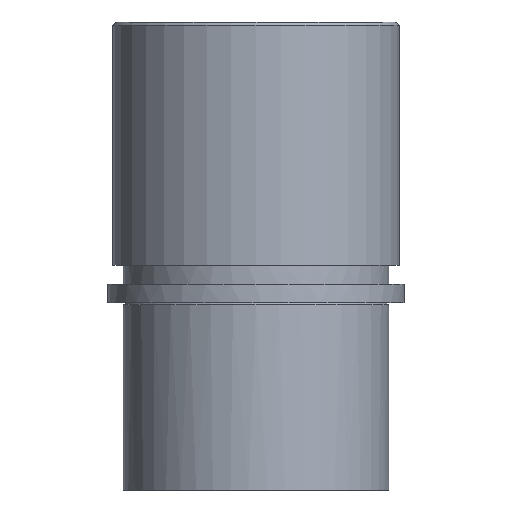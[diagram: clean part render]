
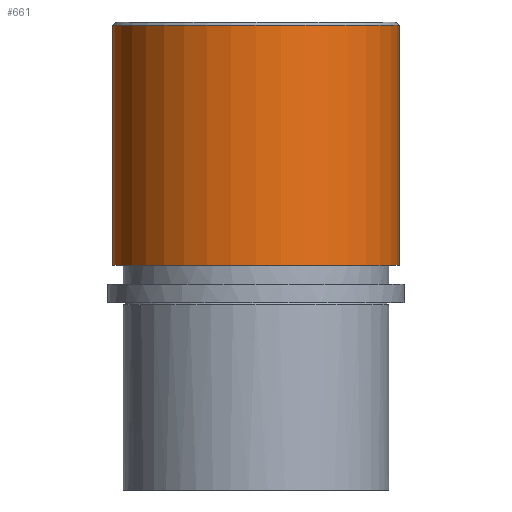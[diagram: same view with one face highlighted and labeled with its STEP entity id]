
A CAD part, front view. The second image highlights one B-rep face of the part: STEP entity #661.
In plain terms, the highlighted cylindrical face has radius 45.9 mm (diameter 91.8 mm), a partial arc.
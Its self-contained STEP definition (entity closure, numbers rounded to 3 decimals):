
#505=CARTESIAN_POINT('Vertex',(-45.9,0.,89.)) ;
#512=CARTESIAN_POINT('Vertex',(45.9,0.,89.)) ;
#532=CARTESIAN_POINT('Axis2P3D Location',(0.,0.,89.)) ;
#619=CARTESIAN_POINT('Line Origine',(-45.9,0.,90.)) ;
#623=CARTESIAN_POINT('Vertex',(-45.9,0.,12.)) ;
#626=CARTESIAN_POINT('Line Origine',(45.9,0.,90.)) ;
#630=CARTESIAN_POINT('Vertex',(45.9,0.,12.)) ;
#645=CARTESIAN_POINT('Axis2P3D Location',(0.,0.,90.)) ;
#650=CARTESIAN_POINT('Axis2P3D Location',(0.,0.,12.)) ;
#533=DIRECTION('Axis2P3D Direction',(0.,0.,-1.)) ;
#620=DIRECTION('Vector Direction',(0.,0.,-1.)) ;
#627=DIRECTION('Vector Direction',(0.,0.,-1.)) ;
#646=DIRECTION('Axis2P3D Direction',(0.,0.,-1.)) ;
#647=DIRECTION('Axis2P3D XDirection',(1.,0.,0.)) ;
#651=DIRECTION('Axis2P3D Direction',(0.,0.,-1.)) ;
#534=AXIS2_PLACEMENT_3D('Circle Axis2P3D',#532,#533,$) ;
#648=AXIS2_PLACEMENT_3D('Cylinder Axis2P3D',#645,#646,#647) ;
#652=AXIS2_PLACEMENT_3D('Circle Axis2P3D',#650,#651,$) ;
#656=ORIENTED_EDGE('',*,*,#632,.T.) ;
#657=ORIENTED_EDGE('',*,*,#536,.F.) ;
#658=ORIENTED_EDGE('',*,*,#625,.T.) ;
#659=ORIENTED_EDGE('',*,*,#654,.T.) ;
#621=VECTOR('Line Direction',#620,1.) ;
#628=VECTOR('Line Direction',#627,1.) ;
#661=ADVANCED_FACE('733-60',(#660),#649,.T.) ;
#535=CIRCLE('generated circle',#534,45.9) ;
#653=CIRCLE('generated circle',#652,45.9) ;
#649=CYLINDRICAL_SURFACE('generated cylinder',#648,45.9) ;
#536=EDGE_CURVE('',#506,#513,#535,.F.) ;
#625=EDGE_CURVE('',#506,#624,#622,.T.) ;
#632=EDGE_CURVE('',#631,#513,#629,.F.) ;
#654=EDGE_CURVE('',#624,#631,#653,.F.) ;
#655=EDGE_LOOP('',(#656,#657,#658,#659)) ;
#660=FACE_OUTER_BOUND('',#655,.T.) ;
#622=LINE('Line',#619,#621) ;
#629=LINE('Line',#626,#628) ;
#506=VERTEX_POINT('',#505) ;
#513=VERTEX_POINT('',#512) ;
#624=VERTEX_POINT('',#623) ;
#631=VERTEX_POINT('',#630) ;
